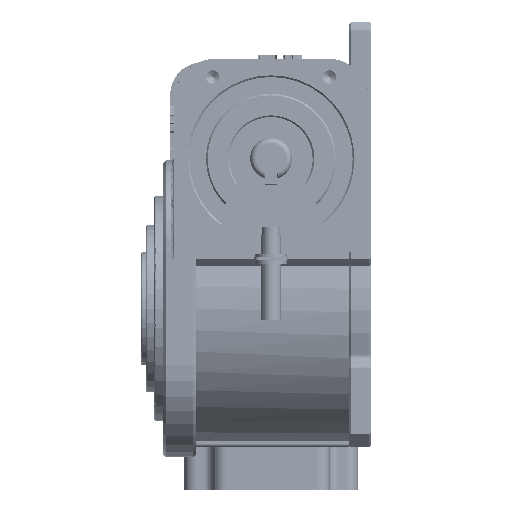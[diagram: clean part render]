
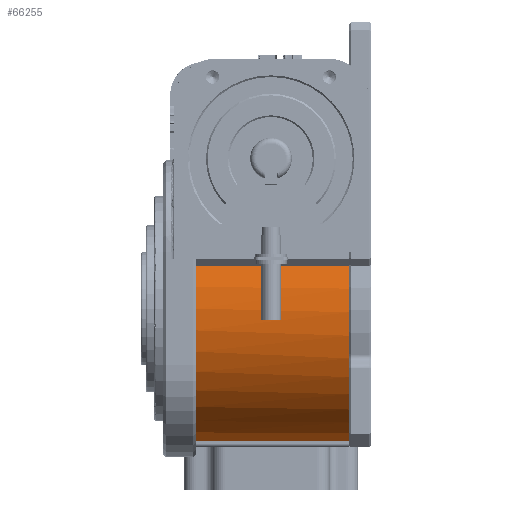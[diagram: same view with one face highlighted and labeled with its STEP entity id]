
A CAD part, left-side view. The second image highlights one B-rep face of the part: STEP entity #66255.
In plain terms, the highlighted cylindrical face has radius 83 mm (diameter 166 mm), a partial arc.
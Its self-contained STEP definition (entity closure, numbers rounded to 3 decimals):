
#1649 = CARTESIAN_POINT ( 'NONE',  ( 0., 105., 0. ) ) ;
#6387 = CARTESIAN_POINT ( 'NONE',  ( -78.866, 105., 25.866 ) ) ;
#6455 = CIRCLE ( 'NONE', #75592, 83. ) ;
#7447 = VERTEX_POINT ( 'NONE', #35653 ) ;
#7955 = CARTESIAN_POINT ( 'NONE',  ( -78.866, 105., 25.866 ) ) ;
#11522 = AXIS2_PLACEMENT_3D ( 'NONE', #95734, #32206, #106370 ) ;
#11660 = VECTOR ( 'NONE', #133313, 1000. ) ;
#11697 = DIRECTION ( 'NONE',  ( 0., -1., 0. ) ) ;
#13670 = DIRECTION ( 'NONE',  ( 0., -1., 0. ) ) ;
#14257 = EDGE_CURVE ( 'NONE', #35516, #49793, #124472, .T. ) ;
#18231 = CIRCLE ( 'NONE', #114204, 83. ) ;
#20531 = ORIENTED_EDGE ( 'NONE', *, *, #76913, .F. ) ;
#23032 = VECTOR ( 'NONE', #11697, 1000. ) ;
#24547 = CIRCLE ( 'NONE', #11522, 83. ) ;
#29398 = EDGE_LOOP ( 'NONE', ( #95329, #71621, #20531, #49545, #109961 ) ) ;
#32206 = DIRECTION ( 'NONE',  ( 0., -1., 0. ) ) ;
#35241 = DIRECTION ( 'NONE',  ( 0., -1., 0. ) ) ;
#35516 = VERTEX_POINT ( 'NONE', #83160 ) ;
#35653 = CARTESIAN_POINT ( 'NONE',  ( -77.457, 13., -29.823 ) ) ;
#49545 = ORIENTED_EDGE ( 'NONE', *, *, #79294, .T. ) ;
#49793 = VERTEX_POINT ( 'NONE', #7955 ) ;
#53550 = VERTEX_POINT ( 'NONE', #123571 ) ;
#55253 = CARTESIAN_POINT ( 'NONE',  ( -25., 13., -79.145 ) ) ;
#58134 = CARTESIAN_POINT ( 'NONE',  ( 0., 105., 0. ) ) ;
#66255 = ADVANCED_FACE ( 'NONE', ( #103870 ), #72498, .T. ) ;
#68748 = DIRECTION ( 'NONE',  ( 0., 0., -1. ) ) ;
#71621 = ORIENTED_EDGE ( 'NONE', *, *, #14257, .T. ) ;
#72498 = CYLINDRICAL_SURFACE ( 'NONE', #119225, 83. ) ;
#75592 = AXIS2_PLACEMENT_3D ( 'NONE', #58134, #131890, #68748 ) ;
#76913 = EDGE_CURVE ( 'NONE', #53550, #49793, #6455, .T. ) ;
#79294 = EDGE_CURVE ( 'NONE', #53550, #100592, #83003, .T. ) ;
#83003 = LINE ( 'NONE', #96718, #23032 ) ;
#83160 = CARTESIAN_POINT ( 'NONE',  ( -78.866, 13., 25.866 ) ) ;
#86195 = EDGE_CURVE ( 'NONE', #35516, #7447, #18231, .T. ) ;
#94664 = EDGE_CURVE ( 'NONE', #7447, #100592, #24547, .T. ) ;
#95329 = ORIENTED_EDGE ( 'NONE', *, *, #86195, .F. ) ;
#95734 = CARTESIAN_POINT ( 'NONE',  ( 0., 13., 0. ) ) ;
#96718 = CARTESIAN_POINT ( 'NONE',  ( -25., 105., -79.145 ) ) ;
#97798 = DIRECTION ( 'NONE',  ( 0., 0., -1. ) ) ;
#98716 = CARTESIAN_POINT ( 'NONE',  ( 0., 13., 0. ) ) ;
#100592 = VERTEX_POINT ( 'NONE', #55253 ) ;
#103870 = FACE_OUTER_BOUND ( 'NONE', #29398, .T. ) ;
#106370 = DIRECTION ( 'NONE',  ( 0., 0., -1. ) ) ;
#109363 = DIRECTION ( 'NONE',  ( 0., 0., -1. ) ) ;
#109961 = ORIENTED_EDGE ( 'NONE', *, *, #94664, .F. ) ;
#114204 = AXIS2_PLACEMENT_3D ( 'NONE', #98716, #35241, #109363 ) ;
#119225 = AXIS2_PLACEMENT_3D ( 'NONE', #1649, #13670, #97798 ) ;
#123571 = CARTESIAN_POINT ( 'NONE',  ( -25., 105., -79.145 ) ) ;
#124472 = LINE ( 'NONE', #6387, #11660 ) ;
#131890 = DIRECTION ( 'NONE',  ( 0., 1., 0. ) ) ;
#133313 = DIRECTION ( 'NONE',  ( 0., 1., 0. ) ) ;
